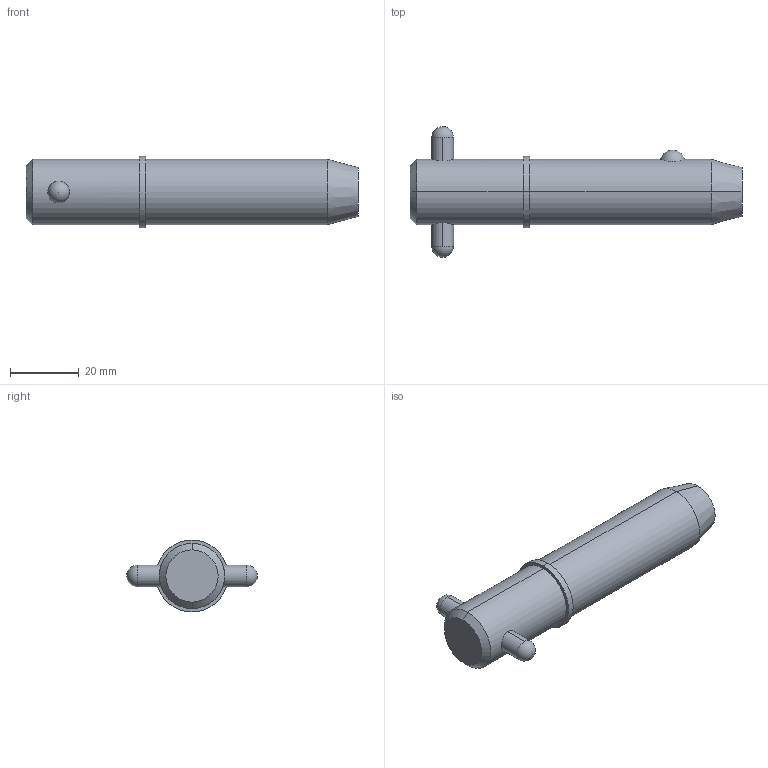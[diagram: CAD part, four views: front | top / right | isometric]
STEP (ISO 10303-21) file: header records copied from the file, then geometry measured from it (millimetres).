
FILE_DESCRIPTION (( 'STEP AP203' ), '1' );
FILE_NAME ('33018.W7515.step', '2024-11-19T17:20:00', ( '' ), ( '' ), 'SwSTEP 2.0', 'SolidWorks 2019', '' );
FILE_SCHEMA (( 'CONFIG_CONTROL_DESIGN' ));
Length unit declared in the file: millimetre
Products named in the file (3): Part1_33018.W7515; 33018.W7515; Part2_33018.W7515
Assembly tree (2 placements, depth 2):
  33018.W7515
    Part1_33018.W7515
    Part2_33018.W7515
Bounding box: 96.83 x 38.1 x 20.95 mm (x, y, z)
Volume: 27645 mm3; surface area: 7343.5 mm2
Topology: 2 solids, 2 shells, 22 faces, 47 edges, 30 vertices
Faces by surface type: cylinder 10, sphere 4, cone 4, plane 4
Entity records: 1041 total; most frequent: CARTESIAN_POINT 284, DIRECTION 110, ORIENTED_EDGE 82, AXIS2_PLACEMENT_3D 48, EDGE_CURVE 41, EDGE_LOOP 27, VERTEX_POINT 26, PERSON_AND_ORGANIZATION 26
